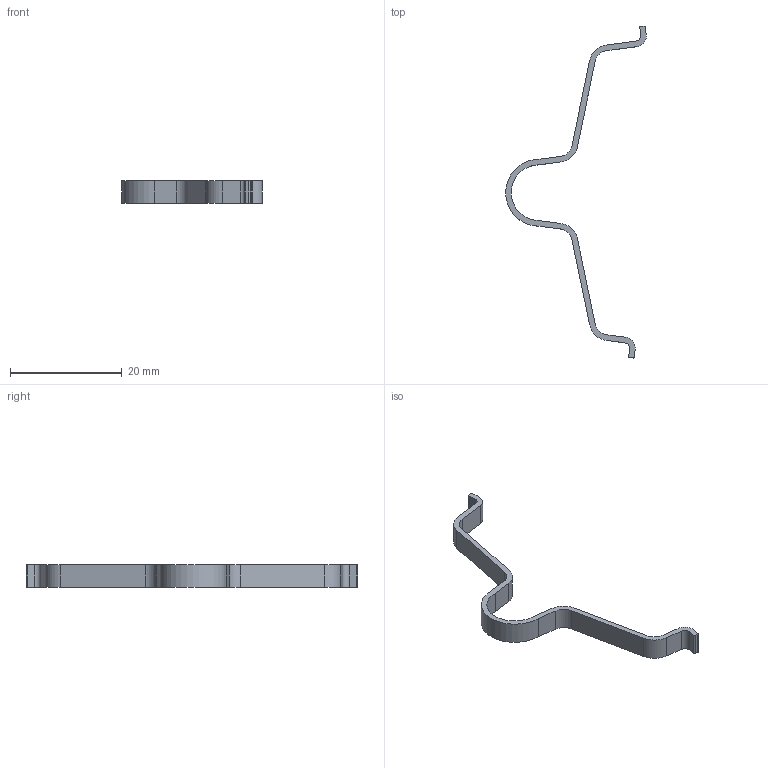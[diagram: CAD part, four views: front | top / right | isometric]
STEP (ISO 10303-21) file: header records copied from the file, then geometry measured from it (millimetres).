
FILE_DESCRIPTION(('CATIA V5 STEP Exchange'),'2;1');
FILE_NAME('G:\够快云库\系统集成开发部\1.部门成员\孙国\座椅控制阀\机加方案\LS.42.51_S1 异形弹簧片.stp','2020-04-01T10:17:24+00:00',('none'),('none'),'CATIA Version 5 Release 21 GA (IN-10)','CATIA V5 STEP AP203','none');
FILE_SCHEMA(('CONFIG_CONTROL_DESIGN'));
Length unit declared in the file: millimetre
Products named in the file (1): 弹簧.1
Bounding box: 25.19 x 59.46 x 4 mm (x, y, z)
Volume: 349.3 mm3; surface area: 880.1 mm2
Topology: 1 solids, 1 shells, 38 faces, 108 edges, 72 vertices
Faces by surface type: plane 20, cylinder 18
Entity records: 1254 total; most frequent: CARTESIAN_POINT 219, ORIENTED_EDGE 216, DIRECTION 184, EDGE_CURVE 108, AXIS2_PLACEMENT_3D 75, VECTOR 72, LINE 72, VERTEX_POINT 72
